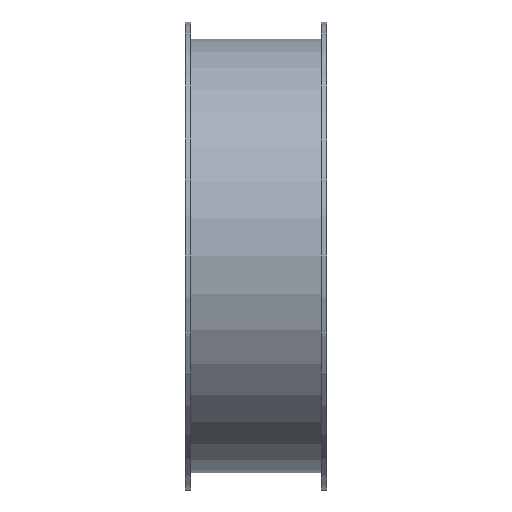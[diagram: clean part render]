
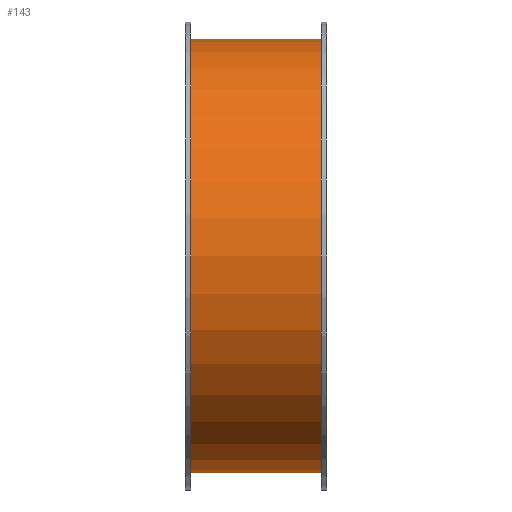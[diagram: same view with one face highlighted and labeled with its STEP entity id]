
A CAD part, front view. The second image highlights one B-rep face of the part: STEP entity #143.
In plain terms, the highlighted cylindrical face has radius 76.5 mm (diameter 153 mm), a full revolution.
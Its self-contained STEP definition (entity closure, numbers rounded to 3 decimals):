
#112=CARTESIAN_POINT('',(16.119,2.817,0.0));
#113=VERTEX_POINT('',#112);
#114=CARTESIAN_POINT('',(16.119,79.317,0.0));
#115=DIRECTION('',(-1.0,0.0,0.0));
#116=DIRECTION('',(0.0,-1.0,0.0));
#117=AXIS2_PLACEMENT_3D('',#114,#115,#116);
#118=CIRCLE('',#117,76.5);
#119=EDGE_CURVE('',#113,#113,#118,.T.);
#124=CARTESIAN_POINT('',(-6.881,79.317,0.0));
#125=DIRECTION('',(-1.0,0.,0.0));
#126=DIRECTION('',(0.0,-1.0,0.0));
#127=AXIS2_PLACEMENT_3D('',#124,#125,#126);
#128=CYLINDRICAL_SURFACE('',#127,76.5);
#129=CARTESIAN_POINT('',(-29.881,2.817,0.0));
#130=VERTEX_POINT('',#129);
#131=CARTESIAN_POINT('',(-29.881,79.317,0.0));
#132=DIRECTION('',(-1.0,0.0,0.0));
#133=DIRECTION('',(0.0,-1.0,0.0));
#134=AXIS2_PLACEMENT_3D('',#131,#132,#133);
#135=CIRCLE('',#134,76.5);
#136=EDGE_CURVE('',#130,#130,#135,.T.);
#137=ORIENTED_EDGE('',*,*,#136,.F.);
#138=EDGE_LOOP('',(#137));
#139=FACE_OUTER_BOUND('',#138,.T.);
#140=ORIENTED_EDGE('',*,*,#119,.T.);
#141=EDGE_LOOP('',(#140));
#142=FACE_BOUND('',#141,.T.);
#143=ADVANCED_FACE('',(#139,#142),#128,.T.);
